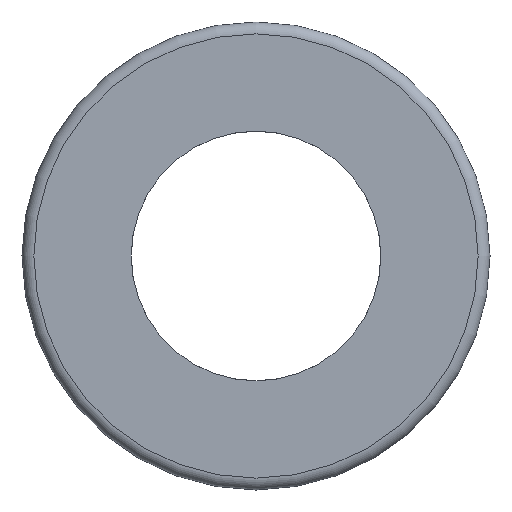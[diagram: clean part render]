
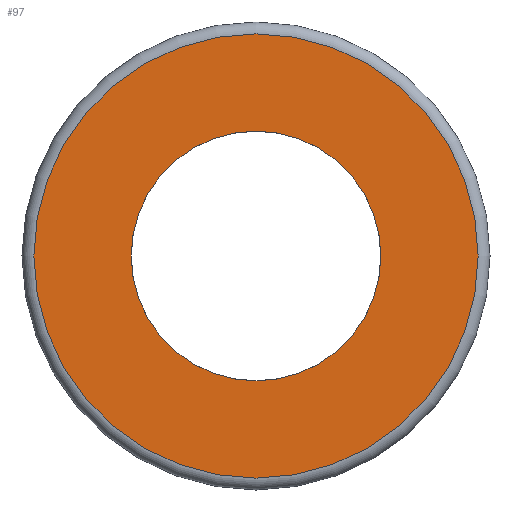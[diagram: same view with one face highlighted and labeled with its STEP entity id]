
A CAD part, left-side view. The second image highlights one B-rep face of the part: STEP entity #97.
In plain terms, the highlighted planar face has unit normal (-1, 0, 0).
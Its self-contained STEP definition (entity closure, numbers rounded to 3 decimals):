
#97=ADVANCED_FACE('',(#166,#167),#168,.T.);
#166=FACE_OUTER_BOUND('',#238,.T.);
#167=FACE_BOUND('',#239,.T.);
#168=PLANE('',#240);
#238=EDGE_LOOP('',(#354));
#239=EDGE_LOOP('',(#355));
#240=AXIS2_PLACEMENT_3D('',#356,#357,#358);
#354=ORIENTED_EDGE('',*,*,#386,.T.);
#355=ORIENTED_EDGE('',*,*,#365,.T.);
#356=CARTESIAN_POINT('',(0.0,0.0,0.0));
#357=DIRECTION('',(-1.0,0.0,0.0));
#358=DIRECTION('',(0.0,-1.0,0.0));
#365=EDGE_CURVE('',#390,#390,#391,.T.);
#386=EDGE_CURVE('',#432,#432,#433,.T.);
#390=VERTEX_POINT('',#438);
#391=CIRCLE('',#439,4.001);
#432=VERTEX_POINT('',#480);
#433=CIRCLE('',#481,7.119);
#438=CARTESIAN_POINT('',(0.0,0.0,-4.001));
#439=AXIS2_PLACEMENT_3D('',#487,#488,#489);
#480=CARTESIAN_POINT('',(0.0,0.0,7.119));
#481=AXIS2_PLACEMENT_3D('',#550,#551,#552);
#487=CARTESIAN_POINT('',(0.0,0.0,0.0));
#488=DIRECTION('',(1.0,0.0,0.0));
#489=DIRECTION('',(0.0,0.0,-1.0));
#550=CARTESIAN_POINT('',(0.0,0.0,0.0));
#551=DIRECTION('',(-1.0,0.0,0.0));
#552=DIRECTION('',(0.0,0.0,1.0));
